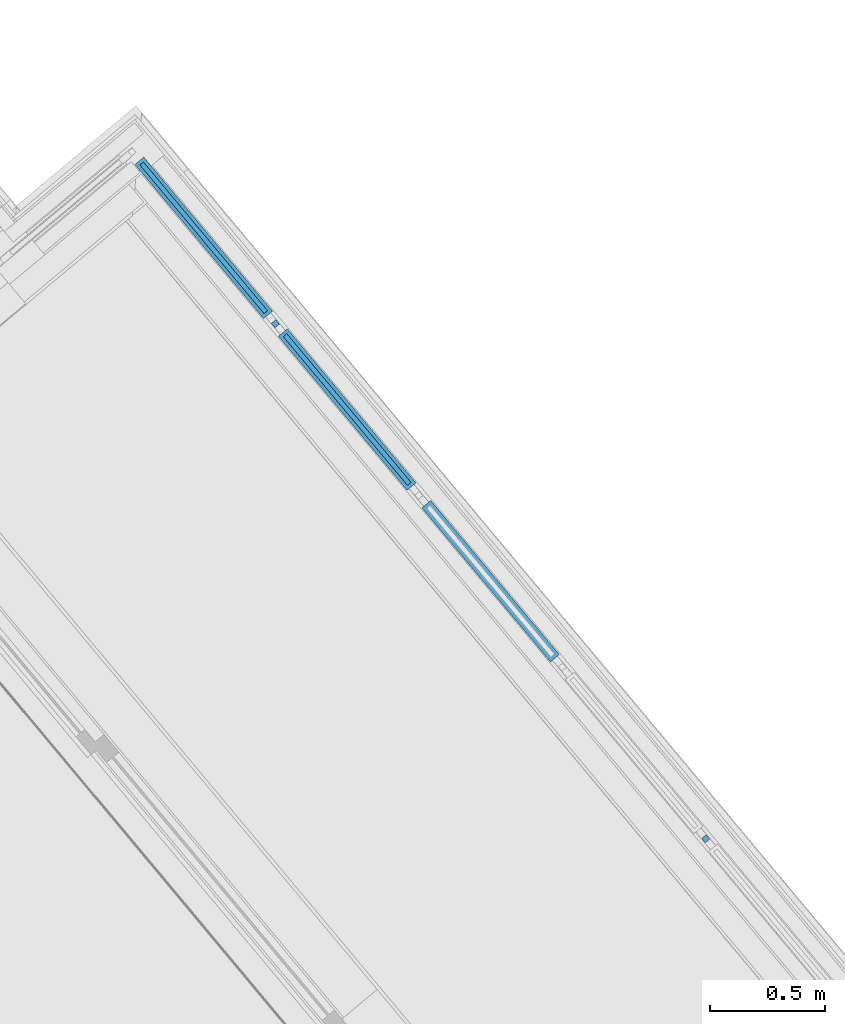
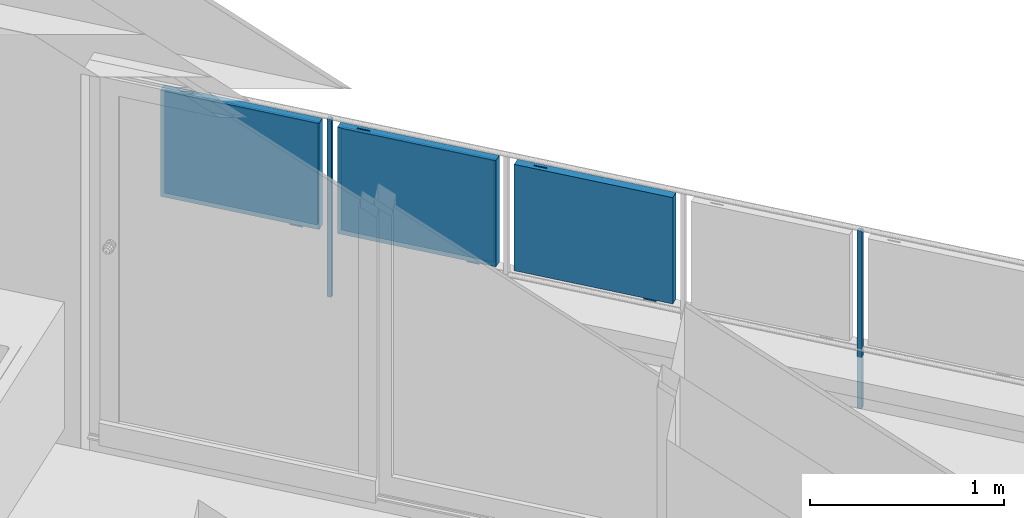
# One storey, part 40 of 58: 7 building element parts, 1 element without a shape of its own.
"""IFC4 building model written with IfcOpenShell, lengths in metres."""

import ifcopenshell
import ifcopenshell.guid

model = None  # the IFC model being written
_history = None  # IfcOwnerHistory: only IFC2X3 demands one
_inside = {}  # id of a spatial element -> (the spatial element, [elements in it])
_under = {}  # id of a project, library or spatial element -> (it, [spatial elements below it])
_declared = {}  # id of a project -> (the project, [libraries it declares])
_typed = {}  # id of a type object -> (the type object, [elements of that type])
_made_of = {}  # id of a material, layer set ... -> (it, [elements and type objects made of it])


def new_model(schema):
    """Start an empty IFC model of exactly this schema.

    Asked for "IFC4X3", IfcOpenShell would pick the latest addendum, in which some entities
    have other attributes; the version numbers below select the first issue.
    IFC2X3 requires an IfcOwnerHistory on every rooted entity: one is made here for all.
    """
    global model, _history
    if schema == "IFC4X3":
        model = ifcopenshell.file(schema_version=(4, 3, 0, 0))
    else:
        model = ifcopenshell.file(schema=schema)
    _inside.clear()
    _under.clear()
    _declared.clear()
    _typed.clear()
    _made_of.clear()
    _history = None
    if model.schema == "IFC2X3":
        org = make("IfcOrganization", Name="unknown")
        user = make(
            "IfcPersonAndOrganization",
            ThePerson=make("IfcPerson", FamilyName="unknown"),
            TheOrganization=org,
        )
        app = make(
            "IfcApplication",
            ApplicationDeveloper=org,
            Version="unknown",
            ApplicationFullName="unknown",
            ApplicationIdentifier="unknown",
        )
        _history = make(
            "IfcOwnerHistory",
            OwningUser=user,
            OwningApplication=app,
            ChangeAction="ADDED",
            CreationDate=0,
        )
    return model


def make(cls, **values):
    """One entity of the class cls with the attributes given. An attribute that is None is left unset."""
    return model.create_entity(
        cls, **{name: value for name, value in values.items() if value is not None}
    )


def entity(cls, *values):
    """Any entity or typed value of the class cls, its attributes in the order of the schema. None: left unset."""
    e = model.create_entity(cls)
    for i, value in enumerate(values):
        if value is not None:
            e[i] = value
    return e


def rooted(cls, **values):
    """An entity with a GlobalId (a new one), such as an element, a storey or a relation."""
    return make(cls, GlobalId=ifcopenshell.guid.new(), OwnerHistory=_history, **values)


def si_unit(unit_type, name, prefix=None):
    """IfcSIUnit, for example si_unit("LENGTHUNIT", "METRE", prefix="MILLI")."""
    return make("IfcSIUnit", UnitType=unit_type, Prefix=prefix, Name=name)


def converted_unit(unit_type, name, factor, base, dimensions=None, offset=None):
    """IfcConversionBasedUnit, such as the inch: factor (a typed value) times the base unit."""
    return make(
        "IfcConversionBasedUnit"
        if offset is None
        else "IfcConversionBasedUnitWithOffset",
        ConversionOffset=offset,
        Dimensions=None
        if dimensions is None
        else entity("IfcDimensionalExponents", *dimensions),
        UnitType=unit_type,
        Name=name,
        ConversionFactor=make(
            "IfcMeasureWithUnit", ValueComponent=factor, UnitComponent=base
        ),
    )


def derived_unit(unit_type, elements):
    """IfcDerivedUnit: a product of units, each with its exponent."""
    return make(
        "IfcDerivedUnit",
        Elements=[
            make("IfcDerivedUnitElement", Unit=unit, Exponent=power)
            for unit, power in elements
        ],
        UnitType=unit_type,
    )


def assignment(units):
    """IfcUnitAssignment: the units of a project."""
    return None if units is None else make("IfcUnitAssignment", Units=units)


def point(xyz):
    """IfcCartesianPoint."""
    return None if xyz is None else make("IfcCartesianPoint", Coordinates=xyz)


def direction(xyz):
    """IfcDirection."""
    return None if xyz is None else make("IfcDirection", DirectionRatios=xyz)


def frame(location, z_axis=None, x_axis=None):
    """IfcAxis2Placement3D, a coordinate frame: its origin and axes. An axis left out is left unset."""
    return make(
        "IfcAxis2Placement3D",
        Location=point(location),
        Axis=direction(z_axis),
        RefDirection=direction(x_axis),
    )


def origin_with_axes():
    """The frame at (0, 0, 0) with the z axis (0, 0, 1) and the x axis (1, 0, 0) written out."""
    return frame((0.0, 0.0, 0.0), z_axis=(0.0, 0.0, 1.0), x_axis=(1.0, 0.0, 0.0))


def place(relative_to, where):
    """IfcLocalPlacement: puts the frame where relative to a parent placement (None: the world)."""
    return make(
        "IfcLocalPlacement", PlacementRelTo=relative_to, RelativePlacement=where
    )


def context(
    kind, dimensions, precision=None, world=None, true_north=None, identifier=None
):
    """IfcGeometricRepresentationContext, for example the 3D "Model" context."""
    return make(
        "IfcGeometricRepresentationContext",
        ContextIdentifier=identifier,
        ContextType=kind,
        CoordinateSpaceDimension=dimensions,
        Precision=precision,
        WorldCoordinateSystem=world,
        TrueNorth=true_north,
    )


def subcontext(parent, identifier, kind, view, scale=None):
    """IfcGeometricRepresentationSubContext, for example "Body" below "Model"."""
    return make(
        "IfcGeometricRepresentationSubContext",
        ContextIdentifier=identifier,
        ContextType=kind,
        ParentContext=parent,
        TargetScale=scale,
        TargetView=view,
    )


def project(units=None, contexts=None):
    """IfcProject with its units and contexts."""
    return rooted(
        "IfcProject",
        Name="project",
        RepresentationContexts=contexts,
        UnitsInContext=assignment(units),
    )


def spatial(cls, under=None, at=None, **own):
    """A site, building, storey or space (cls), placed at a placement, below another one or the project."""
    s = rooted(cls, ObjectPlacement=at, **own)
    if under is not None:
        _under.setdefault(under.id(), (under, []))[1].append(s)
    return s


def point_list(points):
    """IfcCartesianPointList2D or 3D."""
    cls = (
        "IfcCartesianPointList2D" if len(points[0]) == 2 else "IfcCartesianPointList3D"
    )
    return make(cls, CoordList=points)


def polygons(points, faces, closed=None, point_numbers=None):
    """IfcPolygonalFaceSet: a face is its outer loop, then its inner loops; points numbered from 1."""
    made = []
    for loops in faces:
        if len(loops) == 1:
            made.append(make("IfcIndexedPolygonalFace", CoordIndex=loops[0]))
        else:
            made.append(
                make(
                    "IfcIndexedPolygonalFaceWithVoids",
                    CoordIndex=loops[0],
                    InnerCoordIndices=loops[1:],
                )
            )
    return make(
        "IfcPolygonalFaceSet",
        Coordinates=point_list(points),
        Closed=closed,
        Faces=made,
        PnIndex=point_numbers,
    )


def shape(context_of_items, identifier, shape_type, items):
    """IfcShapeRepresentation: the items that make up one representation, for example the "Body"."""
    return make(
        "IfcShapeRepresentation",
        ContextOfItems=context_of_items,
        RepresentationIdentifier=identifier,
        RepresentationType=shape_type,
        Items=items,
    )


def material(Name=None, Category=None):
    """IfcMaterial."""
    return make("IfcMaterial", Name=Name, Category=Category)


def made_of(thing, what):
    """Note that an element or type object is made of a material, layer set ...; save() writes the relation."""
    if what is not None:
        _made_of.setdefault(what.id(), (what, []))[1].append(thing)
    return thing


def type_object(cls, material=None, **own):
    """A type object (cls), such as IfcWallType, which elements share."""
    return made_of(rooted(cls, **own), material)


def element(
    cls,
    number,
    at=None,
    inside=None,
    cuts=None,
    type_object=None,
    material=None,
    context=None,
    identifier="Body",
    shape_type=None,
    held_by="IfcProductDefinitionShape",
    body=None,
    shapes=None,
    **own,
):
    """One element of the class cls, such as IfcWall. Its Tag is "e" and its number.

    at: its placement. inside: the storey or other place that contains it. cuts: it is an
    opening in that element (IfcRelVoidsElement). A single representation is given by context,
    identifier, shape_type and body (its items); several are given by shapes. held_by: the class
    of the entity that holds the representations. save() writes the other relations.
    """
    e = rooted(cls, Tag="e%d" % number, ObjectPlacement=at, **own)
    if body is not None:
        shapes = [shape(context, identifier, shape_type, body)]
    if shapes is not None:
        e.Representation = make(held_by, Representations=shapes)
    if inside is not None:
        _inside.setdefault(inside.id(), (inside, []))[1].append(e)
    if cuts is not None:
        rooted(
            "IfcRelVoidsElement", RelatingBuildingElement=cuts, RelatedOpeningElement=e
        )
    if type_object is not None:
        _typed.setdefault(type_object.id(), (type_object, []))[1].append(e)
    return made_of(e, material)


def aggregate(whole, parts):
    """IfcRelAggregates: a whole, such as a stair, and the parts it consists of."""
    return rooted("IfcRelAggregates", RelatingObject=whole, RelatedObjects=parts)


def save(model, path):
    """Write the relations noted so far, then the file.

    IfcRelAggregates (storeys below a building ...), IfcRelContainedInSpatialStructure (elements
    in a storey), IfcRelDefinesByType, IfcRelAssociatesMaterial and IfcRelDeclares: one each for
    every whole, place, type object, material and project.
    """
    for whole, parts in _under.values():
        aggregate(whole, parts)
    for where, things in _inside.values():
        rooted(
            "IfcRelContainedInSpatialStructure",
            RelatedElements=things,
            RelatingStructure=where,
        )
    for kind, things in _typed.values():
        rooted("IfcRelDefinesByType", RelatedObjects=things, RelatingType=kind)
    for what, things in _made_of.values():
        rooted("IfcRelAssociatesMaterial", RelatedObjects=things, RelatingMaterial=what)
    for by, libraries in _declared.values():
        rooted("IfcRelDeclares", RelatingContext=by, RelatedDefinitions=libraries)
    model.write(path)


model = new_model("IFC4")

# Units and contexts
model_context = context("Model", 3, precision=1e-05, world=origin_with_axes(), true_north=direction((0.0, 1.0)))
body_context = subcontext(model_context, "Body", "Model", "MODEL_VIEW")
ifc_project = project(units=[si_unit("LENGTHUNIT", "METRE"), si_unit("AREAUNIT", "SQUARE_METRE"), si_unit("VOLUMEUNIT", "CUBIC_METRE"), converted_unit("PLANEANGLEUNIT", "DEGREE", entity("IfcPlaneAngleMeasure", 0.0174532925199), si_unit("PLANEANGLEUNIT", "RADIAN"), dimensions=[0, 0, 0, 0, 0, 0, 0]), converted_unit("TIMEUNIT", "Year", entity("IfcTimeMeasure", 31556926.0), si_unit("TIMEUNIT", "SECOND"), dimensions=[0, 0, 1, 0, 0, 0, 0]), si_unit("MASSUNIT", "GRAM", prefix="KILO"), si_unit("THERMODYNAMICTEMPERATUREUNIT", "DEGREE_CELSIUS"), si_unit("LUMINOUSINTENSITYUNIT", "LUMEN"), si_unit("ENERGYUNIT", "JOULE", prefix="MEGA"), derived_unit("THERMALCONDUCTANCEUNIT", [(si_unit("POWERUNIT", "WATT"), 1), (si_unit("LENGTHUNIT", "METRE"), -1), (si_unit("THERMODYNAMICTEMPERATUREUNIT", "KELVIN"), -1)]), derived_unit("SPECIFICHEATCAPACITYUNIT", [(si_unit("ENERGYUNIT", "JOULE"), 1), (si_unit("MASSUNIT", "GRAM", prefix="KILO"), -1), (si_unit("THERMODYNAMICTEMPERATUREUNIT", "KELVIN"), -1)]), derived_unit("MASSDENSITYUNIT", [(si_unit("MASSUNIT", "GRAM", prefix="KILO"), 1), (si_unit("VOLUMEUNIT", "CUBIC_METRE"), -1)])], contexts=[model_context])

# Site, building, storey
site_placement = place(None, frame((-0.00153261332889, -0.00661245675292, 0.0), z_axis=(0.0, 0.0, 1.0), x_axis=(1.0, 0.0, 0.0)))
site = spatial("IfcSite", under=ifc_project, at=site_placement, Name="Site", CompositionType="ELEMENT")
building_placement = place(site_placement, origin_with_axes())
building = spatial("IfcBuilding", under=site, at=building_placement, Name="Building", CompositionType="ELEMENT")
storey_placement = place(building_placement, frame((0.0, 0.0, 5.7), z_axis=(0.0, 0.0, 1.0), x_axis=(1.0, 0.0, 0.0)))
storey = spatial("IfcBuildingStorey", under=building, at=storey_placement, Name="DG1", CompositionType="ELEMENT", Elevation=5.7)

# Railing, building element parts
railing_type = type_object("IfcRailingType", Name="Geländerart", PredefinedType="NOTDEFINED")
railing_placement = place(storey_placement, frame((13.1317464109, 20.5971564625, 0.38), z_axis=(0.0, 0.0, 1.0), x_axis=(1.0, 0.0, 0.0)))
railing = element("IfcRailing", 1, at=railing_placement, inside=storey, type_object=railing_type, Name="Geländer - 001", PredefinedType="NOTDEFINED")
ifc_material_1 = material(Name="Aluminium")
building_element_part_1_placement = place(railing_placement, origin_with_axes())
building_element_part_1 = element("IfcBuildingElementPart", 2, at=building_element_part_1_placement, material=ifc_material_1, Name="Aluminium", PredefinedType="NOTDEFINED", context=body_context, shape_type="Tessellation", body=[
    polygons([(-0.0294549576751, 2.39349521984, -0.3), (-0.0486412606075, 2.37746756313, -0.3), (-0.0486412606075, 2.37746756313, 0.82), (-0.0294549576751, 2.39349521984, 0.82), (-0.0134273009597, 2.37430891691, -0.3), (-0.0326136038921, 2.35828126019, -0.3), (-0.0326136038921, 2.35828126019, 0.82), (-0.0134273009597, 2.37430891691, 0.82)], [[[1, 2, 3, 4]], [[1, 5, 6, 2]], [[2, 6, 7, 3]], [[4, 3, 7, 8]], [[5, 1, 4, 8]], [[6, 5, 8, 7]]], closed=True),
])
building_element_part_2_placement = place(railing_placement, origin_with_axes())
building_element_part_2 = element("IfcBuildingElementPart", 3, at=building_element_part_2_placement, material=ifc_material_1, Name="Aluminium", PredefinedType="NOTDEFINED", context=body_context, shape_type="Tessellation", body=[
    polygons([(-0.752048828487, 3.23509702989, 0.12), (-0.79692626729, 3.2888186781, 0.12), (-0.79692626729, 3.2888186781, 0.095), (-0.752048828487, 3.23509702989, 0.095), (-0.7482115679, 3.23830256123, 0.12), (-0.793089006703, 3.29202420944, 0.12), (-0.793089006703, 3.29202420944, 0.095), (-0.7482115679, 3.23830256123, 0.095)], [[[1, 2, 3, 4]], [[5, 6, 2, 1]], [[2, 6, 7, 3]], [[4, 3, 7, 8]], [[1, 4, 8, 5]], [[8, 7, 6, 5]]], closed=True),
    polygons([(-1.18264692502, 3.75055513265, 0.79), (-1.13776948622, 3.69683348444, 0.79), (-1.13776948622, 3.69683348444, 0.795), (-1.18264692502, 3.75055513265, 0.795), (-1.17880966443, 3.75376066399, 0.79), (-1.13393222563, 3.70003901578, 0.79), (-1.13393222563, 3.70003901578, 0.795), (-1.17880966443, 3.75376066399, 0.795)], [[[1, 2, 3, 4]], [[5, 6, 2, 1]], [[2, 6, 7, 3]], [[4, 3, 7, 8]], [[1, 4, 8, 5]], [[8, 7, 6, 5]]], closed=True),
    polygons([(-0.6668332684, 3.17598224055, 0.12), (-0.705205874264, 3.14392692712, 0.12), (-1.26402522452, 3.81287545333, 0.12), (-1.22565261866, 3.84493076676, 0.12), (-0.679655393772, 3.19133128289, 0.14), (-0.691167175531, 3.18171468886, 0.14), (-0.687961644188, 3.17787742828, 0.135), (-0.703310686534, 3.1650553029, 0.135), (-0.706516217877, 3.16889256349, 0.14), (-0.718027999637, 3.15927596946, 0.14), (-1.25120309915, 3.79752641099, 0.14), (-1.25120309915, 3.79752641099, 0.77), (-0.718027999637, 3.15927596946, 0.77), (-0.718027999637, 3.15927596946, 0.14), (-0.705205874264, 3.14392692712, 0.12), (-0.705205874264, 3.14392692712, 0.79), (-1.26402522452, 3.81287545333, 0.79), (-1.22565261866, 3.84493076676, 0.79), (-0.6668332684, 3.17598224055, 0.79), (-0.6668332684, 3.17598224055, 0.12), (-0.679655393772, 3.19133128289, 0.14), (-0.679655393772, 3.19133128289, 0.77), (-1.21283049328, 3.82958172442, 0.77), (-1.21283049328, 3.82958172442, 0.14), (-1.22434227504, 3.81996513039, 0.14), (-1.22434227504, 3.81996513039, 0.77), (-0.691167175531, 3.18171468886, 0.77), (-0.691167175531, 3.18171468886, 0.14), (-0.687961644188, 3.17787742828, 0.135), (-0.687961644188, 3.17787742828, 0.775), (-1.22754780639, 3.82380239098, 0.775), (-1.22754780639, 3.82380239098, 0.135), (-1.24289684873, 3.8109802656, 0.135), (-1.24289684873, 3.8109802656, 0.775), (-0.703310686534, 3.1650553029, 0.775), (-0.703310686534, 3.1650553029, 0.135), (-0.706516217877, 3.16889256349, 0.14), (-0.706516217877, 3.16889256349, 0.77), (-1.23969131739, 3.80714300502, 0.77), (-1.23969131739, 3.80714300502, 0.14)], [[[1, 2, 3, 4]], [[1, 5, 6, 7, 8, 9, 10, 2]], [[2, 10, 11, 12, 13, 14, 15, 16, 17, 3]], [[4, 3, 17, 18]], [[5, 1, 4, 18, 19, 20, 21, 22, 23, 24]], [[6, 5, 24, 25]], [[7, 6, 25, 26, 27, 28, 29, 30, 31, 32]], [[8, 7, 32, 33]], [[9, 8, 33, 34, 35, 36, 37, 38, 39, 40]], [[10, 9, 40, 11]], [[11, 40, 39, 12]], [[12, 39, 38, 13]], [[13, 38, 37, 14]], [[20, 15, 14, 37, 36, 29, 28, 21]], [[19, 16, 15, 20]], [[18, 17, 16, 19]], [[27, 22, 21, 28]], [[26, 23, 22, 27]], [[25, 24, 23, 26]], [[35, 30, 29, 36]], [[34, 31, 30, 35]], [[33, 32, 31, 34]]], closed=True),
])
ifc_material_2 = material(Name="Profilit")
building_element_part_3_placement = place(railing_placement, origin_with_axes())
building_element_part_3 = element("IfcBuildingElementPart", 4, at=building_element_part_3_placement, material=ifc_material_2, Name="Profilit", PredefinedType="NOTDEFINED", context=body_context, shape_type="Tessellation", body=[
    polygons([(-1.86582682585, 4.55667400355, 0.135), (-1.32624066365, 3.91074904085, 0.135), (-1.32624066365, 3.91074904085, 0.775), (-1.86582682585, 4.55667400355, 0.775), (-1.31089162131, 3.92357116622, 0.135), (-1.8504777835, 4.56949612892, 0.135), (-1.31089162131, 3.92357116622, 0.775), (-1.8504777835, 4.56949612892, 0.775)], [[[1, 2, 3, 4]], [[5, 2, 1, 6]], [[7, 3, 2, 5]], [[4, 3, 7, 8]], [[1, 4, 8, 6]], [[7, 5, 6, 8]]], closed=True),
])
building_element_part_4_placement = place(railing_placement, origin_with_axes())
building_element_part_4 = element("IfcBuildingElementPart", 5, at=building_element_part_4_placement, material=ifc_material_1, Name="Aluminium", PredefinedType="NOTDEFINED", context=body_context, shape_type="Tessellation", body=[
    polygons([(-1.3749788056, 3.98079076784, 0.12), (-1.41985624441, 4.03451241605, 0.12), (-1.41985624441, 4.03451241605, 0.095), (-1.3749788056, 3.98079076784, 0.095), (-1.37114154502, 3.98399629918, 0.12), (-1.41601898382, 4.03771794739, 0.12), (-1.41601898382, 4.03771794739, 0.095), (-1.37114154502, 3.98399629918, 0.095)], [[[1, 2, 3, 4]], [[5, 6, 2, 1]], [[2, 6, 7, 3]], [[4, 3, 7, 8]], [[1, 4, 8, 5]], [[8, 7, 6, 5]]], closed=True),
    polygons([(-1.80557690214, 4.4962488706, 0.79), (-1.76069946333, 4.44252722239, 0.79), (-1.76069946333, 4.44252722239, 0.795), (-1.80557690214, 4.4962488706, 0.795), (-1.80173964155, 4.49945440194, 0.79), (-1.75686220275, 4.44573275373, 0.79), (-1.75686220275, 4.44573275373, 0.795), (-1.80173964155, 4.49945440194, 0.795)], [[[1, 2, 3, 4]], [[5, 6, 2, 1]], [[2, 6, 7, 3]], [[4, 3, 7, 8]], [[1, 4, 8, 5]], [[8, 7, 6, 5]]], closed=True),
    polygons([(-1.28976324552, 3.92167597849, 0.12), (-1.32813585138, 3.88962066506, 0.12), (-1.88695520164, 4.55856919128, 0.12), (-1.84858259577, 4.59062450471, 0.12), (-1.30258537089, 3.93702502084, 0.14), (-1.31409715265, 3.92740842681, 0.14), (-1.31089162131, 3.92357116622, 0.135), (-1.32624066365, 3.91074904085, 0.135), (-1.32944619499, 3.91458630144, 0.14), (-1.34095797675, 3.90496970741, 0.14), (-1.87413307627, 4.54322014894, 0.14), (-1.87413307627, 4.54322014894, 0.77), (-1.34095797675, 3.90496970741, 0.77), (-1.34095797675, 3.90496970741, 0.14), (-1.32813585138, 3.88962066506, 0.12), (-1.32813585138, 3.88962066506, 0.79), (-1.88695520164, 4.55856919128, 0.79), (-1.84858259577, 4.59062450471, 0.79), (-1.28976324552, 3.92167597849, 0.79), (-1.28976324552, 3.92167597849, 0.12), (-1.30258537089, 3.93702502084, 0.14), (-1.30258537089, 3.93702502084, 0.77), (-1.8357604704, 4.57527546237, 0.77), (-1.8357604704, 4.57527546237, 0.14), (-1.84727225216, 4.56565886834, 0.14), (-1.84727225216, 4.56565886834, 0.77), (-1.31409715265, 3.92740842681, 0.77), (-1.31409715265, 3.92740842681, 0.14), (-1.31089162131, 3.92357116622, 0.135), (-1.31089162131, 3.92357116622, 0.775), (-1.8504777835, 4.56949612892, 0.775), (-1.8504777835, 4.56949612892, 0.135), (-1.86582682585, 4.55667400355, 0.135), (-1.86582682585, 4.55667400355, 0.775), (-1.32624066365, 3.91074904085, 0.775), (-1.32624066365, 3.91074904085, 0.135), (-1.32944619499, 3.91458630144, 0.14), (-1.32944619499, 3.91458630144, 0.77), (-1.86262129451, 4.55283674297, 0.77), (-1.86262129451, 4.55283674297, 0.14)], [[[1, 2, 3, 4]], [[1, 5, 6, 7, 8, 9, 10, 2]], [[2, 10, 11, 12, 13, 14, 15, 16, 17, 3]], [[4, 3, 17, 18]], [[5, 1, 4, 18, 19, 20, 21, 22, 23, 24]], [[6, 5, 24, 25]], [[7, 6, 25, 26, 27, 28, 29, 30, 31, 32]], [[8, 7, 32, 33]], [[9, 8, 33, 34, 35, 36, 37, 38, 39, 40]], [[10, 9, 40, 11]], [[11, 40, 39, 12]], [[12, 39, 38, 13]], [[13, 38, 37, 14]], [[20, 15, 14, 37, 36, 29, 28, 21]], [[19, 16, 15, 20]], [[18, 17, 16, 19]], [[27, 22, 21, 28]], [[26, 23, 22, 27]], [[25, 24, 23, 26]], [[35, 30, 29, 36]], [[34, 31, 30, 35]], [[33, 32, 31, 34]]], closed=True),
])
building_element_part_5_placement = place(railing_placement, origin_with_axes())
building_element_part_5 = element("IfcBuildingElementPart", 6, at=building_element_part_5_placement, material=ifc_material_1, Name="Aluminium", PredefinedType="NOTDEFINED", context=body_context, shape_type="Tessellation", body=[
    polygons([(-1.89824488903, 4.63057643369, -0.3), (-1.91743119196, 4.61454877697, -0.3), (-1.91743119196, 4.61454877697, 0.82), (-1.89824488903, 4.63057643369, 0.82), (-1.88221723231, 4.61139013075, -0.3), (-1.90140353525, 4.59536247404, -0.3), (-1.90140353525, 4.59536247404, 0.82), (-1.88221723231, 4.61139013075, 0.82)], [[[1, 2, 3, 4]], [[1, 5, 6, 2]], [[2, 6, 7, 3]], [[4, 3, 7, 8]], [[5, 1, 4, 8]], [[6, 5, 8, 7]]], closed=True),
])
building_element_part_6_placement = place(railing_placement, origin_with_axes())
building_element_part_6 = element("IfcBuildingElementPart", 7, at=building_element_part_6_placement, material=ifc_material_2, Name="Profilit", PredefinedType="NOTDEFINED", context=body_context, shape_type="Tessellation", body=[
    polygons([(-2.48875680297, 5.3023677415, 0.135), (-1.94917064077, 4.6564427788, 0.135), (-1.94917064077, 4.6564427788, 0.775), (-2.48875680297, 5.3023677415, 0.775), (-1.93382159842, 4.66926490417, 0.135), (-2.47340776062, 5.31518986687, 0.135), (-1.93382159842, 4.66926490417, 0.775), (-2.47340776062, 5.31518986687, 0.775)], [[[1, 2, 3, 4]], [[5, 2, 1, 6]], [[7, 3, 2, 5]], [[4, 3, 7, 8]], [[1, 4, 8, 6]], [[7, 5, 6, 8]]], closed=True),
])
building_element_part_7_placement = place(railing_placement, origin_with_axes())
building_element_part_7 = element("IfcBuildingElementPart", 8, at=building_element_part_7_placement, material=ifc_material_1, Name="Aluminium", PredefinedType="NOTDEFINED", context=body_context, shape_type="Tessellation", body=[
    polygons([(-1.99790878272, 4.72648450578, 0.12), (-2.04278622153, 4.780206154, 0.12), (-2.04278622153, 4.780206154, 0.095), (-1.99790878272, 4.72648450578, 0.095), (-1.99407152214, 4.72969003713, 0.12), (-2.03894896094, 4.78341168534, 0.12), (-2.03894896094, 4.78341168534, 0.095), (-1.99407152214, 4.72969003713, 0.095)], [[[1, 2, 3, 4]], [[5, 6, 2, 1]], [[2, 6, 7, 3]], [[4, 3, 7, 8]], [[1, 4, 8, 5]], [[8, 7, 6, 5]]], closed=True),
    polygons([(-2.42850687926, 5.24194260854, 0.79), (-2.38362944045, 5.18822096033, 0.79), (-2.38362944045, 5.18822096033, 0.795), (-2.42850687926, 5.24194260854, 0.795), (-2.42466961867, 5.24514813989, 0.79), (-2.37979217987, 5.19142649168, 0.79), (-2.37979217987, 5.19142649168, 0.795), (-2.42466961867, 5.24514813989, 0.795)], [[[1, 2, 3, 4]], [[5, 6, 2, 1]], [[2, 6, 7, 3]], [[4, 3, 7, 8]], [[1, 4, 8, 5]], [[8, 7, 6, 5]]], closed=True),
    polygons([(-1.91269322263, 4.66736971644, 0.12), (-1.9510658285, 4.63531440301, 0.12), (-2.50988517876, 5.30426292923, 0.12), (-2.47151257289, 5.33631824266, 0.12), (-1.92551534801, 4.68271875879, 0.14), (-1.93702712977, 4.67310216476, 0.14), (-1.93382159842, 4.66926490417, 0.135), (-1.94917064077, 4.6564427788, 0.135), (-1.95237617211, 4.66028003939, 0.14), (-1.96388795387, 4.65066344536, 0.14), (-2.49706305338, 5.28891388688, 0.14), (-2.49706305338, 5.28891388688, 0.77), (-1.96388795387, 4.65066344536, 0.77), (-1.96388795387, 4.65066344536, 0.14), (-1.9510658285, 4.63531440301, 0.12), (-1.9510658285, 4.63531440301, 0.79), (-2.50988517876, 5.30426292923, 0.79), (-2.47151257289, 5.33631824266, 0.79), (-1.91269322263, 4.66736971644, 0.79), (-1.91269322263, 4.66736971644, 0.12), (-1.92551534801, 4.68271875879, 0.14), (-1.92551534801, 4.68271875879, 0.77), (-2.45869044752, 5.32096920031, 0.77), (-2.45869044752, 5.32096920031, 0.14), (-2.47020222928, 5.31135260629, 0.14), (-2.47020222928, 5.31135260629, 0.77), (-1.93702712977, 4.67310216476, 0.77), (-1.93702712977, 4.67310216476, 0.14), (-1.93382159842, 4.66926490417, 0.135), (-1.93382159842, 4.66926490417, 0.775), (-2.47340776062, 5.31518986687, 0.775), (-2.47340776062, 5.31518986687, 0.135), (-2.48875680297, 5.3023677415, 0.135), (-2.48875680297, 5.3023677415, 0.775), (-1.94917064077, 4.6564427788, 0.775), (-1.94917064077, 4.6564427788, 0.135), (-1.95237617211, 4.66028003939, 0.14), (-1.95237617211, 4.66028003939, 0.77), (-2.48555127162, 5.29853048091, 0.77), (-2.48555127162, 5.29853048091, 0.14)], [[[1, 2, 3, 4]], [[1, 5, 6, 7, 8, 9, 10, 2]], [[2, 10, 11, 12, 13, 14, 15, 16, 17, 3]], [[4, 3, 17, 18]], [[5, 1, 4, 18, 19, 20, 21, 22, 23, 24]], [[6, 5, 24, 25]], [[7, 6, 25, 26, 27, 28, 29, 30, 31, 32]], [[8, 7, 32, 33]], [[9, 8, 33, 34, 35, 36, 37, 38, 39, 40]], [[10, 9, 40, 11]], [[11, 40, 39, 12]], [[12, 39, 38, 13]], [[13, 38, 37, 14]], [[20, 15, 14, 37, 36, 29, 28, 21]], [[19, 16, 15, 20]], [[18, 17, 16, 19]], [[27, 22, 21, 28]], [[26, 23, 22, 27]], [[25, 24, 23, 26]], [[35, 30, 29, 36]], [[34, 31, 30, 35]], [[33, 32, 31, 34]]], closed=True),
])
aggregate(railing, [building_element_part_1, building_element_part_2, building_element_part_3, building_element_part_4, building_element_part_5, building_element_part_6, building_element_part_7])

save(model, "model.ifc")
